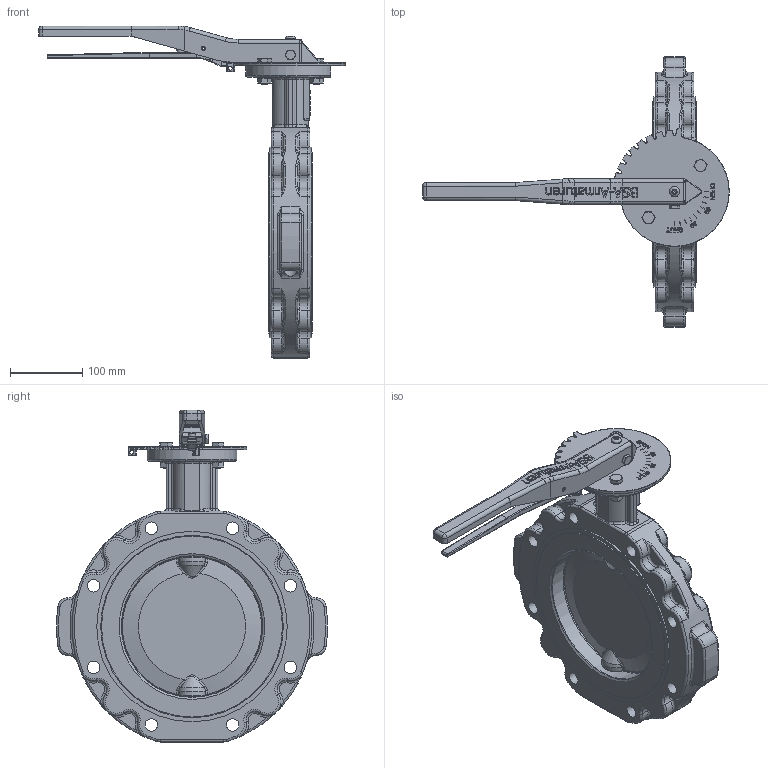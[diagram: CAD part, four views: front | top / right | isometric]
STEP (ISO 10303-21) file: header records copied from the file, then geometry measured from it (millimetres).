
FILE_DESCRIPTION((''),'2;1');
FILE_NAME('K:\Inventor\1 Artikel\10) Absperrklappen\10a) manuell\Chemvalve\844-GGG, CST-L\844-GGG, DN200\844-GGG, DN200, 3D\844-GGG, DN200, PN10, HH, 3D.stp','2019-08-13T13:15:00',('claudia'),(''),'Autodesk Inventor 2013','Autodesk Inventor 2013','');
FILE_SCHEMA(('AUTOMOTIVE_DESIGN { 1 0 10303 214 1 1 1 1 }'));
Length unit declared in the file: millimetre
Products named in the file (1): Bauteil34
Bounding box: 425 x 375.53 x 460.1 mm (x, y, z)
Volume: 4075326 mm3; surface area: 526803.2 mm2
Topology: 1 solids, 3 shells, 2183 faces, 5691 edges, 3548 vertices
Faces by surface type: plane 810, bspline 656, cylinder 350, torus 247, cone 84, sphere 36
Full cylindrical faces by diameter (mm): 2.65 x4, 5.5 x2, 6 x2, 6.4 x1, 6.647 x1, 7 x2, 8 x1, 9 x1, 10 x3, 11 x4, 11.63 x1, 14 x1, 14.63 x2, 17.294 x8, 18 x2, 20 x2, 32 x1, 34 x1, 71 x2, 219.1 x2, 250.8 x2, 253 x2, 264 x2
Entity records: 80328 total; most frequent: CARTESIAN_POINT 29453, ORIENTED_EDGE 10970, DIRECTION 8693, EDGE_CURVE 5485, VERTEX_POINT 3509, AXIS2_PLACEMENT_3D 3082, VECTOR 2529, LINE 2529
